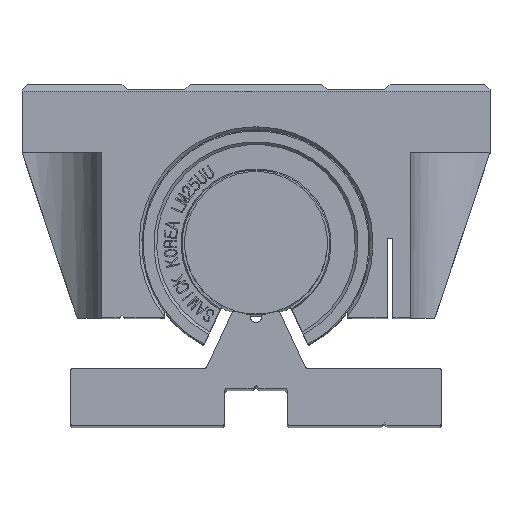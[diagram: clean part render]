
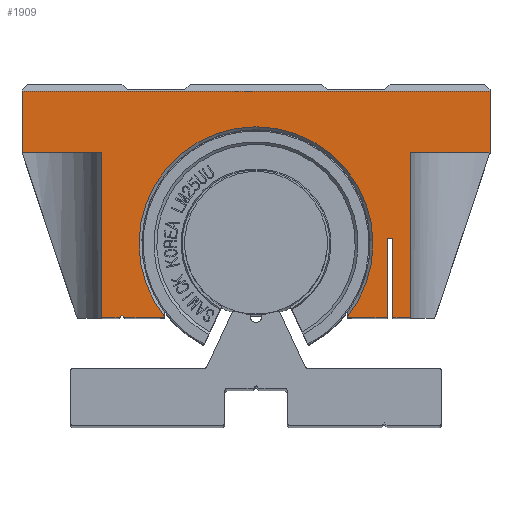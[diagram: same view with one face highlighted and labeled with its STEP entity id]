
A CAD part, top view. The second image highlights one B-rep face of the part: STEP entity #1909.
In plain terms, the highlighted planar face has unit normal (0, 0, 1).
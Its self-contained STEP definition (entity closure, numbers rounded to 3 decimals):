
#460=CARTESIAN_POINT('',(-41.0,16.,32.5));
#461=VERTEX_POINT('',#460);
#468=CARTESIAN_POINT('',(-41.0,26.7,32.5));
#469=VERTEX_POINT('',#468);
#470=CARTESIAN_POINT('',(-41.0,16.,32.5));
#471=DIRECTION('',(0.0,1.0,0.0));
#472=VECTOR('',#471,10.7);
#473=LINE('',#470,#472);
#474=EDGE_CURVE('',#461,#469,#473,.T.);
#603=CARTESIAN_POINT('',(41.0,26.7,32.5));
#604=VERTEX_POINT('',#603);
#611=CARTESIAN_POINT('',(41.0,16.,32.5));
#612=VERTEX_POINT('',#611);
#613=CARTESIAN_POINT('',(41.0,26.7,32.5));
#614=DIRECTION('',(0.0,-1.0,0.0));
#615=VECTOR('',#614,10.7);
#616=LINE('',#613,#615);
#617=EDGE_CURVE('',#604,#612,#616,.T.);
#660=CARTESIAN_POINT('',(-41.0,26.7,32.5));
#661=DIRECTION('',(1.0,0.0,0.0));
#662=VECTOR('',#661,82.0);
#663=LINE('',#660,#662);
#664=EDGE_CURVE('',#469,#604,#663,.T.);
#966=CARTESIAN_POINT('',(-16.0,-12.816,32.5));
#967=VERTEX_POINT('',#966);
#992=CARTESIAN_POINT('',(16.0,-12.816,32.5));
#993=VERTEX_POINT('',#992);
#1007=CARTESIAN_POINT('',(0.0,0.0,32.5));
#1008=DIRECTION('',(0.0,0.0,1.0));
#1009=DIRECTION('',(0.0,1.0,0.0));
#1010=AXIS2_PLACEMENT_3D('',#1007,#1008,#1009);
#1011=CIRCLE('',#1010,20.5);
#1012=EDGE_CURVE('',#993,#967,#1011,.T.);
#1055=CARTESIAN_POINT('',(-16.0,-13.,32.5));
#1056=VERTEX_POINT('',#1055);
#1057=CARTESIAN_POINT('',(-16.0,-12.816,32.5));
#1058=DIRECTION('',(0.0,-1.0,0.0));
#1059=VECTOR('',#1058,0.184);
#1060=LINE('',#1057,#1059);
#1061=EDGE_CURVE('',#967,#1056,#1060,.T.);
#1526=CARTESIAN_POINT('',(16.0,-13.,32.5));
#1527=VERTEX_POINT('',#1526);
#1534=CARTESIAN_POINT('',(16.0,-13.,32.5));
#1535=DIRECTION('',(0.0,1.0,0.0));
#1536=VECTOR('',#1535,0.184);
#1537=LINE('',#1534,#1536);
#1538=EDGE_CURVE('',#1527,#993,#1537,.T.);
#1588=CARTESIAN_POINT('',(23.,-13.,32.5));
#1589=VERTEX_POINT('',#1588);
#1596=CARTESIAN_POINT('',(23.,-13.0,32.5));
#1597=DIRECTION('',(-1.0,0.0,0.0));
#1598=VECTOR('',#1597,7.);
#1599=LINE('',#1596,#1598);
#1600=EDGE_CURVE('',#1589,#1527,#1599,.T.);
#1700=CARTESIAN_POINT('',(24.,1.,32.5));
#1701=VERTEX_POINT('',#1700);
#1702=CARTESIAN_POINT('',(24.,-13.0,32.5));
#1703=VERTEX_POINT('',#1702);
#1704=CARTESIAN_POINT('',(24.,1.,32.5));
#1705=DIRECTION('',(0.0,-1.0,0.0));
#1706=VECTOR('',#1705,14.0);
#1707=LINE('',#1704,#1706);
#1708=EDGE_CURVE('',#1701,#1703,#1707,.T.);
#1734=CARTESIAN_POINT('',(23.0,1.,32.5));
#1735=VERTEX_POINT('',#1734);
#1736=CARTESIAN_POINT('',(23.,-13.,32.5));
#1737=DIRECTION('',(0.0,1.0,0.0));
#1738=VECTOR('',#1737,14.);
#1739=LINE('',#1736,#1738);
#1740=EDGE_CURVE('',#1589,#1735,#1739,.T.);
#1761=CARTESIAN_POINT('',(23.0,1.,32.5));
#1762=DIRECTION('',(1.0,0.0,0.0));
#1763=VECTOR('',#1762,1.);
#1764=LINE('',#1761,#1763);
#1765=EDGE_CURVE('',#1735,#1701,#1764,.T.);
#1814=CARTESIAN_POINT('',(27.,-13.,32.5));
#1815=VERTEX_POINT('',#1814);
#1822=CARTESIAN_POINT('',(27.,-13.,32.5));
#1823=DIRECTION('',(-1.0,0.0,0.0));
#1824=VECTOR('',#1823,3.);
#1825=LINE('',#1822,#1824);
#1826=EDGE_CURVE('',#1815,#1703,#1825,.T.);
#1831=CARTESIAN_POINT('',(-0.034,10.754,32.5));
#1832=DIRECTION('',(0.0,0.0,1.0));
#1833=DIRECTION('',(1.0,0.0,0.0));
#1834=AXIS2_PLACEMENT_3D('',#1831,#1832,#1833);
#1835=PLANE('',#1834);
#1836=ORIENTED_EDGE('',*,*,#664,.F.);
#1837=ORIENTED_EDGE('',*,*,#474,.F.);
#1838=CARTESIAN_POINT('',(-27.,16.,32.5));
#1839=VERTEX_POINT('',#1838);
#1840=CARTESIAN_POINT('',(-41.0,16.,32.5));
#1841=DIRECTION('',(1.0,0.0,0.0));
#1842=VECTOR('',#1841,14.);
#1843=LINE('',#1840,#1842);
#1844=EDGE_CURVE('',#461,#1839,#1843,.T.);
#1845=ORIENTED_EDGE('',*,*,#1844,.T.);
#1846=CARTESIAN_POINT('',(-27.,-13.,32.5));
#1847=VERTEX_POINT('',#1846);
#1848=CARTESIAN_POINT('',(-27.,16.,32.5));
#1849=DIRECTION('',(0.0,-1.0,0.0));
#1850=VECTOR('',#1849,29.0);
#1851=LINE('',#1848,#1850);
#1852=EDGE_CURVE('',#1839,#1847,#1851,.T.);
#1853=ORIENTED_EDGE('',*,*,#1852,.T.);
#1854=CARTESIAN_POINT('',(-24.,-13.,32.5));
#1855=VERTEX_POINT('',#1854);
#1856=CARTESIAN_POINT('',(-24.,-13.,32.5));
#1857=DIRECTION('',(-1.0,0.0,0.0));
#1858=VECTOR('',#1857,3.);
#1859=LINE('',#1856,#1858);
#1860=EDGE_CURVE('',#1855,#1847,#1859,.T.);
#1861=ORIENTED_EDGE('',*,*,#1860,.F.);
#1862=CARTESIAN_POINT('',(-23.5,-12.5,32.5));
#1863=VERTEX_POINT('',#1862);
#1864=CARTESIAN_POINT('',(-23.5,-12.5,32.5));
#1865=DIRECTION('',(-0.707,-0.707,0.0));
#1866=VECTOR('',#1865,0.707);
#1867=LINE('',#1864,#1866);
#1868=EDGE_CURVE('',#1863,#1855,#1867,.T.);
#1869=ORIENTED_EDGE('',*,*,#1868,.F.);
#1870=CARTESIAN_POINT('',(-23.,-13.,32.5));
#1871=VERTEX_POINT('',#1870);
#1872=CARTESIAN_POINT('',(-23.,-13.,32.5));
#1873=DIRECTION('',(-0.707,0.707,0.0));
#1874=VECTOR('',#1873,0.707);
#1875=LINE('',#1872,#1874);
#1876=EDGE_CURVE('',#1871,#1863,#1875,.T.);
#1877=ORIENTED_EDGE('',*,*,#1876,.F.);
#1878=CARTESIAN_POINT('',(-16.0,-13.,32.5));
#1879=DIRECTION('',(-1.0,0.0,0.0));
#1880=VECTOR('',#1879,7.);
#1881=LINE('',#1878,#1880);
#1882=EDGE_CURVE('',#1056,#1871,#1881,.T.);
#1883=ORIENTED_EDGE('',*,*,#1882,.F.);
#1884=ORIENTED_EDGE('',*,*,#1061,.F.);
#1885=ORIENTED_EDGE('',*,*,#1012,.F.);
#1886=ORIENTED_EDGE('',*,*,#1538,.F.);
#1887=ORIENTED_EDGE('',*,*,#1600,.F.);
#1888=ORIENTED_EDGE('',*,*,#1740,.T.);
#1889=ORIENTED_EDGE('',*,*,#1765,.T.);
#1890=ORIENTED_EDGE('',*,*,#1708,.T.);
#1891=ORIENTED_EDGE('',*,*,#1826,.F.);
#1892=CARTESIAN_POINT('',(27.,16.,32.5));
#1893=VERTEX_POINT('',#1892);
#1894=CARTESIAN_POINT('',(27.,-13.,32.5));
#1895=DIRECTION('',(0.0,1.0,0.0));
#1896=VECTOR('',#1895,29.0);
#1897=LINE('',#1894,#1896);
#1898=EDGE_CURVE('',#1815,#1893,#1897,.T.);
#1899=ORIENTED_EDGE('',*,*,#1898,.T.);
#1900=CARTESIAN_POINT('',(27.,16.0,32.5));
#1901=DIRECTION('',(1.0,0.0,0.0));
#1902=VECTOR('',#1901,14.);
#1903=LINE('',#1900,#1902);
#1904=EDGE_CURVE('',#1893,#612,#1903,.T.);
#1905=ORIENTED_EDGE('',*,*,#1904,.T.);
#1906=ORIENTED_EDGE('',*,*,#617,.F.);
#1907=EDGE_LOOP('',(#1836,#1837,#1845,#1853,#1861,#1869,#1877,#1883,#1884,#1885,#1886,#1887,#1888,#1889,#1890,#1891,#1899,#1905,#1906));
#1908=FACE_OUTER_BOUND('',#1907,.T.);
#1909=ADVANCED_FACE('',(#1908),#1835,.T.);
